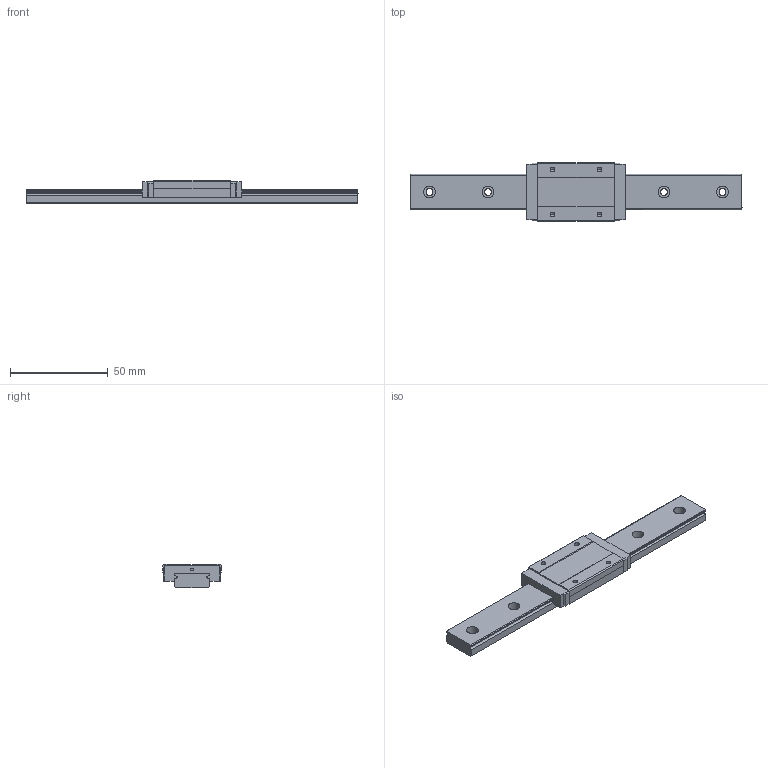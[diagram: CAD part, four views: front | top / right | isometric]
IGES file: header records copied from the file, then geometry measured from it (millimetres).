
Global section: file name: No Iges File Name specified; native system: AutoDesk Inventor R11.0; preprocessor: AutoDesk Inventor Iges Exporter R11.0; author: No Author specified; organization: No Organization specified; date: 20150221.131830; units: millimetre
Bounding box: 170 x 30 x 12 mm (x, y, z)
Surface area: 14732.5 mm2 (no closed solid volume)
Topology: 0 solids, 0 shells, 124 faces, 808 edges, 800 vertices
Faces by surface type: bspline 124
